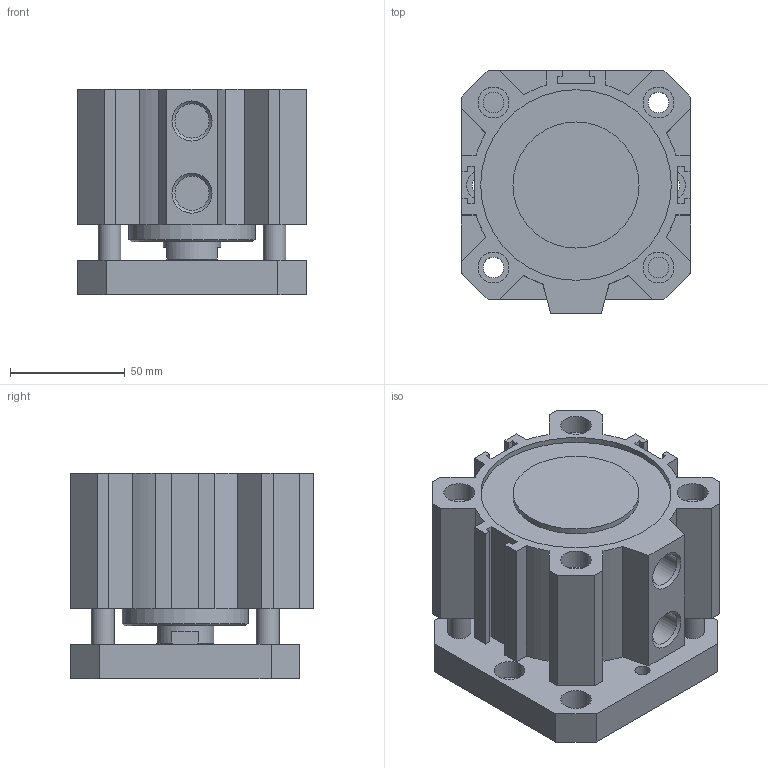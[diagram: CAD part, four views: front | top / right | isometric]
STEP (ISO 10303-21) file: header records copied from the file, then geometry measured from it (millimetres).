
FILE_DESCRIPTION(/* description */ (''),/* implementation_level */ '2;1');
FILE_NAME(/* name */ 'I:\Area Tecnica\Disegni\VARIE-3D\Componenti\1500\Ø80\15##_80_####_#\1501_80_0015_AR.stp',/* time_stamp */ '2016-08-24T14:11:48+02:00',/* author */ ('Maniean1'),/* organization */ ('Pneumax S.p.A.'),/* preprocessor_version */ 'ST-DEVELOPER v15.2',/* originating_system */ 'Autodesk Inventor 2014',/* authorisation */ '');
FILE_SCHEMA (('AUTOMOTIVE_DESIGN { 1 0 10303 214 3 1 1 }'));
Length unit declared in the file: millimetre
Products named in the file (3): C_1501_80_0015_AR; S_1501_80_0015_AR; 1501_80_0015_AR
Bounding box: 100 x 106 x 89.5 mm (x, y, z)
Volume: 562953 mm3; surface area: 126260 mm2
Topology: 2 solids, 2 shells, 139 faces, 341 edges, 228 vertices
Faces by surface type: plane 94, cylinder 40, cone 5
Full cylindrical faces by diameter (mm): 6.647 x2, 8.5 x2, 9 x4, 10 x4, 13.5 x10, 14.95 x2, 25 x2, 55 x2, 80 x2, 83.2 x2
Entity records: 4083 total; most frequent: CARTESIAN_POINT 674, DIRECTION 672, ORIENTED_EDGE 600, EDGE_CURVE 300, AXIS2_PLACEMENT_3D 232, VERTEX_POINT 222, EDGE_LOOP 216, LINE 208
